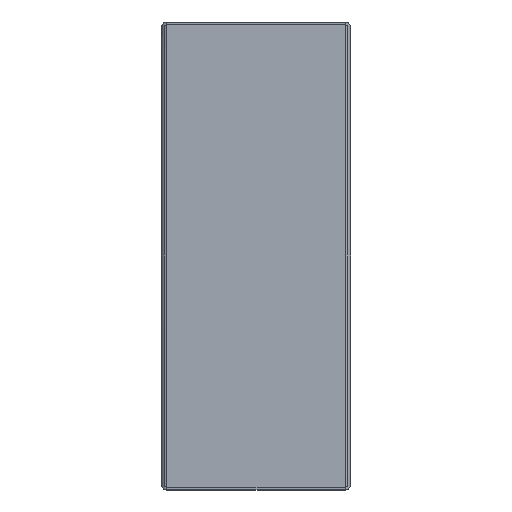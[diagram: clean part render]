
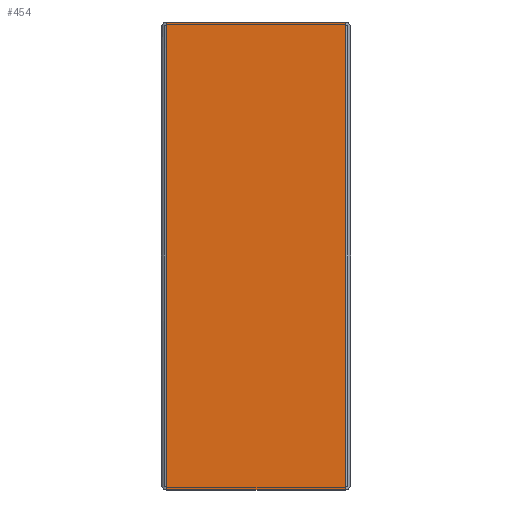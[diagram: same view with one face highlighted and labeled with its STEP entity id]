
A CAD part, left-side view. The second image highlights one B-rep face of the part: STEP entity #454.
In plain terms, the highlighted planar face has unit normal (-1, 0, 0).
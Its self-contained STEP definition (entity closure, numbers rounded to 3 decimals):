
#346=PLANE('',#2359);
#454=ADVANCED_FACE('',(#580),#346,.T.);
#580=FACE_OUTER_BOUND('',#800,.T.);
#800=EDGE_LOOP('',(#1553,#1554,#1555,#1556));
#920=LINE('',#3519,#1048);
#923=LINE('',#3533,#1051);
#931=LINE('',#3548,#1059);
#932=LINE('',#3549,#1060);
#1048=VECTOR('',#2941,1.);
#1051=VECTOR('',#2954,1.);
#1059=VECTOR('',#2972,1.);
#1060=VECTOR('',#2973,1.);
#1553=ORIENTED_EDGE('',*,*,#2051,.T.);
#1554=ORIENTED_EDGE('',*,*,#2042,.T.);
#1555=ORIENTED_EDGE('',*,*,#2052,.F.);
#1556=ORIENTED_EDGE('',*,*,#2036,.T.);
#1778=VERTEX_POINT('',#3514);
#1780=VERTEX_POINT('',#3518);
#1785=VERTEX_POINT('',#3531);
#1787=VERTEX_POINT('',#3534);
#2036=EDGE_CURVE('',#1778,#1780,#920,.T.);
#2042=EDGE_CURVE('',#1787,#1785,#923,.T.);
#2051=EDGE_CURVE('',#1780,#1787,#931,.T.);
#2052=EDGE_CURVE('',#1778,#1785,#932,.T.);
#2359=AXIS2_PLACEMENT_3D('',#3550,#2974,#2975);
#2941=DIRECTION('',(0.,0.,-1.));
#2954=DIRECTION('',(0.,0.,1.));
#2972=DIRECTION('',(0.,-1.,0.));
#2973=DIRECTION('',(0.,-1.,0.));
#2974=DIRECTION('',(-1.,0.,0.));
#2975=DIRECTION('',(0.,0.,1.));
#3514=CARTESIAN_POINT('',(-1030.5,5564.,1326.5));
#3518=CARTESIAN_POINT('',(-1030.5,5564.,832.5));
#3519=CARTESIAN_POINT('',(-1030.5,5564.,932.5));
#3531=CARTESIAN_POINT('',(-1030.5,5376.,1326.5));
#3533=CARTESIAN_POINT('',(-1030.5,5376.,1226.5));
#3534=CARTESIAN_POINT('',(-1030.5,5376.,832.5));
#3548=CARTESIAN_POINT('',(-1030.5,5470.,832.5));
#3549=CARTESIAN_POINT('',(-1030.5,5470.,1326.5));
#3550=CARTESIAN_POINT('',(-1030.5,5470.,1226.5));
